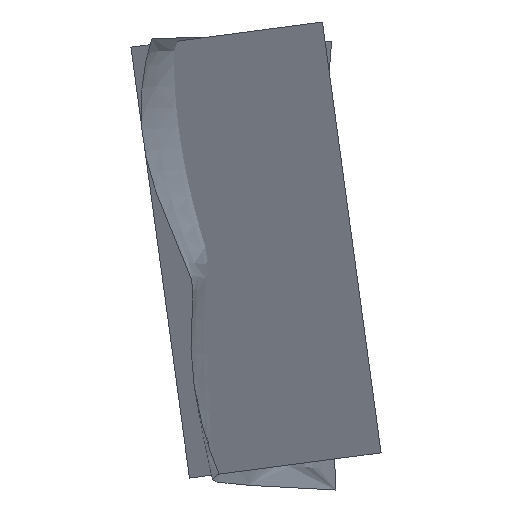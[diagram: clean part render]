
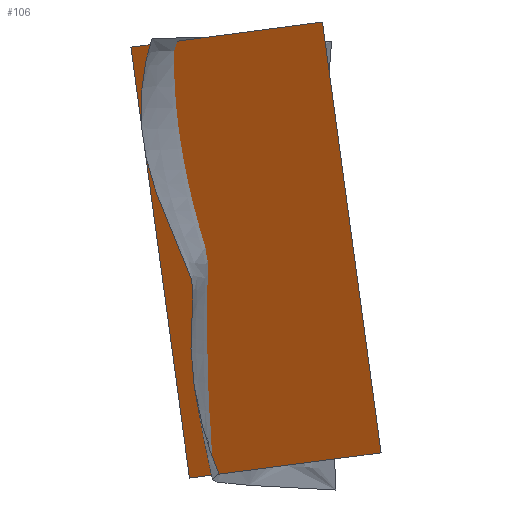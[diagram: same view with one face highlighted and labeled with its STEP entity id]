
A CAD part, left-side view. The second image highlights one B-rep face of the part: STEP entity #106.
In plain terms, the highlighted planar face has unit normal (0.865, -0.496, 0.074).
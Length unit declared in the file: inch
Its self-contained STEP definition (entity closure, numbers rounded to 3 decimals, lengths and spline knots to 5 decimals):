
#67=CARTESIAN_POINT('Axis2P3D Location',(-414.58845,-1043.82642,-93.46124)) ;
#72=CARTESIAN_POINT('Line Origine',(190.96059,27.40138,7.55777)) ;
#76=CARTESIAN_POINT('Vertex',(190.71489,31.97301,41.19188)) ;
#78=CARTESIAN_POINT('Vertex',(191.20629,22.82975,-26.07633)) ;
#81=CARTESIAN_POINT('Line Origine',(199.94586,37.78085,-28.04468)) ;
#85=CARTESIAN_POINT('Vertex',(208.68544,52.73196,-30.01303)) ;
#88=CARTESIAN_POINT('Line Origine',(208.43974,57.30359,3.62107)) ;
#92=CARTESIAN_POINT('Vertex',(208.19404,61.87523,37.25518)) ;
#95=CARTESIAN_POINT('Line Origine',(199.45447,46.92412,39.22353)) ;
#68=DIRECTION('Axis2P3D Direction',(0.865,-0.496,0.074)) ;
#69=DIRECTION('Axis2P3D XDirection',(0.501,0.858,-0.113)) ;
#73=DIRECTION('Vector Direction',(0.007,-0.135,-0.991)) ;
#82=DIRECTION('Vector Direction',(-0.501,-0.858,0.113)) ;
#89=DIRECTION('Vector Direction',(-0.007,0.135,0.991)) ;
#96=DIRECTION('Vector Direction',(0.501,0.858,-0.113)) ;
#70=AXIS2_PLACEMENT_3D('Plane Axis2P3D',#67,#68,#69) ;
#101=ORIENTED_EDGE('',*,*,#80,.T.) ;
#102=ORIENTED_EDGE('',*,*,#87,.T.) ;
#103=ORIENTED_EDGE('',*,*,#94,.T.) ;
#104=ORIENTED_EDGE('',*,*,#99,.T.) ;
#74=VECTOR('Line Direction',#73,0.03937) ;
#83=VECTOR('Line Direction',#82,0.03937) ;
#90=VECTOR('Line Direction',#89,0.03937) ;
#97=VECTOR('Line Direction',#96,0.03937) ;
#106=ADVANCED_FACE('ELEV01_FWD',(#105),#71,.T.) ;
#80=EDGE_CURVE('',#77,#79,#75,.T.) ;
#87=EDGE_CURVE('',#79,#86,#84,.F.) ;
#94=EDGE_CURVE('',#86,#93,#91,.T.) ;
#99=EDGE_CURVE('',#93,#77,#98,.F.) ;
#100=EDGE_LOOP('',(#101,#102,#103,#104)) ;
#105=FACE_OUTER_BOUND('',#100,.T.) ;
#75=LINE('Line',#72,#74) ;
#84=LINE('Line',#81,#83) ;
#91=LINE('Line',#88,#90) ;
#98=LINE('Line',#95,#97) ;
#71=PLANE('',#70) ;
#77=VERTEX_POINT('',#76) ;
#79=VERTEX_POINT('',#78) ;
#86=VERTEX_POINT('',#85) ;
#93=VERTEX_POINT('',#92) ;
